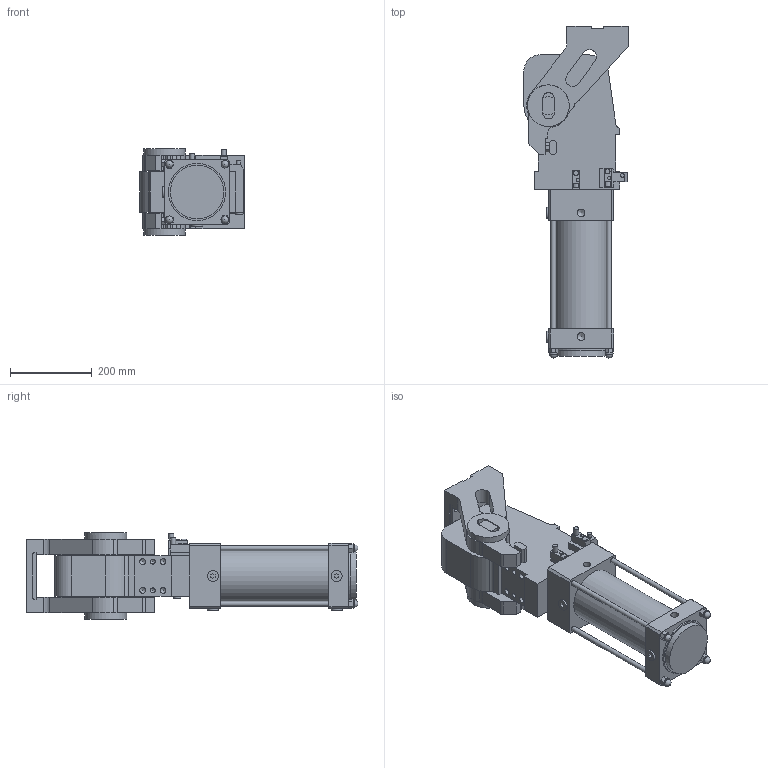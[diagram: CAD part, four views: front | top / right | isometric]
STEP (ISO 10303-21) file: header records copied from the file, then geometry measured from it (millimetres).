
FILE_DESCRIPTION(/* description */ (''),/* implementation_level */ '2;1');
FILE_NAME(/* name */ 'S:\Tom\INVENTOR FILES\AUTOMOTIVE\VEP\DUMP UNITS\C05.P015 RFM.2-RF.2\C05.P015 RFM.2-RF.2\RFM125\SATs\XPUZ125.2-76-4-ESL-P-G-X.stp',/* time_stamp */ '2018-07-29T17:52:43+01:00',/* author */ ('carl'),/* organization */ (''),/* preprocessor_version */ 'ST-DEVELOPER v16.13',/* originating_system */ 'Autodesk Inventor 2018',/* authorisation */ '');
FILE_SCHEMA (('AUTOMOTIVE_DESIGN { 1 0 10303 214 3 1 1 }'));
Length unit declared in the file: millimetre
Products named in the file (11): XPUZ125.2-76-4-ESL-P-G-X_TOP; XPUZ125; XPUZ125_1; XPUZ125_2; XPUZ125_3; XPUZ125_4; XPUZ125_5; XPUZ125_6; XPUZ125_7; XPUZ125_8; XPUZ125_9
Assembly tree (10 placements, depth 2):
  XPUZ125.2-76-4-ESL-P-G-X_TOP
    XPUZ125
    XPUZ125_1
    XPUZ125_2
    XPUZ125_3
    XPUZ125_4
    XPUZ125_5
    XPUZ125_6
    XPUZ125_7
    XPUZ125_8
    XPUZ125_9
Bounding box: 255 x 811.5 x 212 mm (x, y, z)
Volume: 16836008.1 mm3; surface area: 910119.1 mm2
Topology: 10 solids, 10 shells, 404 faces, 1002 edges, 659 vertices
Faces by surface type: plane 268, cylinder 114, cone 18, sphere 4
Full cylindrical faces by diameter (mm): 5.5 x2, 8.5 x2, 10 x3, 10.2 x1, 11.8 x2, 12 x12, 13 x1, 14 x12, 18 x5, 19 x6, 20.6 x4, 27 x4, 45 x1, 50.5 x1, 60 x2, 102 x2, 130 x1, 131 x1, 140 x1
Entity records: 11701 total; most frequent: DIRECTION 1972, CARTESIAN_POINT 1943, ORIENTED_EDGE 1776, EDGE_CURVE 888, AXIS2_PLACEMENT_3D 659, LINE 654, VECTOR 654, VERTEX_POINT 630
